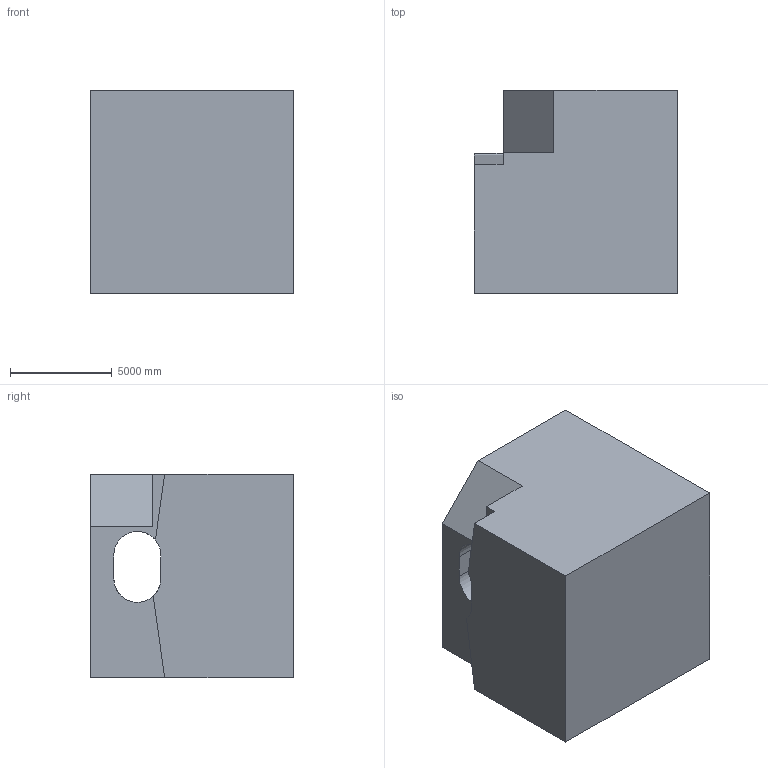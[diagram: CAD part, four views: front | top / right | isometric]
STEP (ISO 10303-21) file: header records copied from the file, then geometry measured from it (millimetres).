
FILE_DESCRIPTION (( 'STEP AP203' ), '1' );
FILE_NAME ('1232.STEP', '2022-08-25T14:46:58', ( 'user' ), ( '' ), 'SwSTEP 2.0', 'SolidWorks 2021', '' );
FILE_SCHEMA (( 'CONFIG_CONTROL_DESIGN' ));
Length unit declared in the file: centimetre
Products named in the file (1): 1232
Bounding box: 10000 x 10000 x 10000 mm (x, y, z)
Volume: 882745447645.6 mm3; surface area: 654107880.5 mm2
Topology: 1 solids, 1 shells, 16 faces, 45 edges, 30 vertices
Faces by surface type: plane 13, cylinder 3
Entity records: 598 total; most frequent: CARTESIAN_POINT 92, ORIENTED_EDGE 90, DIRECTION 87, EDGE_CURVE 45, LINE 37, VECTOR 37, VERTEX_POINT 30, AXIS2_PLACEMENT_3D 25
